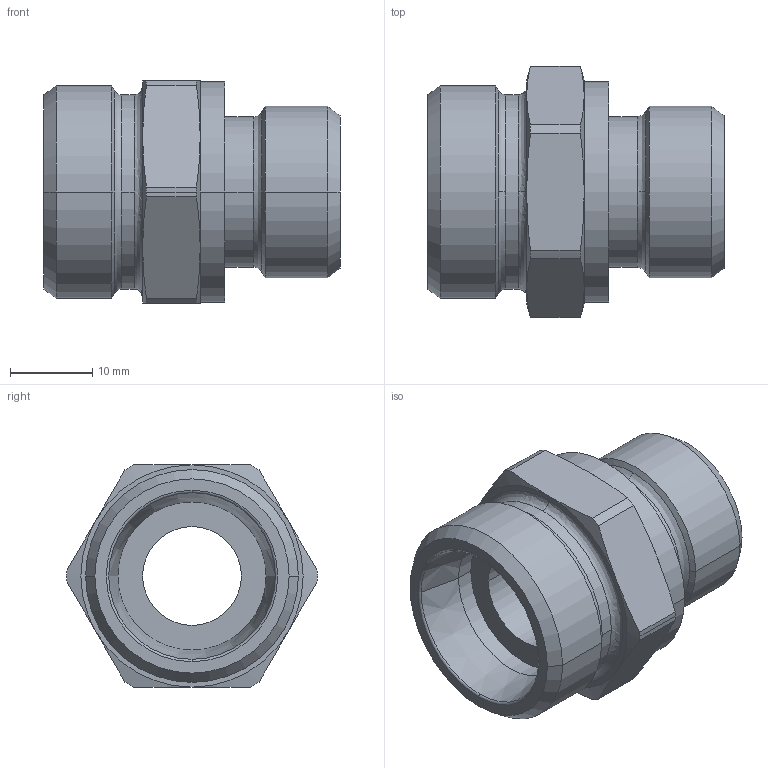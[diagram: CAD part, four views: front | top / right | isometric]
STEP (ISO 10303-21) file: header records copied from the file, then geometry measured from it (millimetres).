
FILE_DESCRIPTION((''),'2;1');
FILE_NAME('100509.stp','2007-10-30T14:17:29',(''),(''),'AutoCAD STEP 2000i','AutoCAD 2000i',', , ');
FILE_SCHEMA(('CONFIG_CONTROL_DESIGN'));
Length unit declared in the file: millimetre
Products named in the file (2): 100509.0; CHIAVE SMUSSATA#0
Assembly tree (1 placements, depth 2):
  100509.0
    CHIAVE SMUSSATA#0
Bounding box: 36 x 30.5 x 27 mm (x, y, z)
Volume: 10669.9 mm3; surface area: 5385.9 mm2
Topology: 1 solids, 1 shells, 75 faces, 185 edges, 117 vertices
Faces by surface type: cylinder 24, cone 24, plane 13, bspline 12, torus 2
Entity records: 2835 total; most frequent: CARTESIAN_POINT 955, DIRECTION 410, ORIENTED_EDGE 370, EDGE_CURVE 185, AXIS2_PLACEMENT_3D 184, CIRCLE 119, VERTEX_POINT 117, EDGE_LOOP 82
